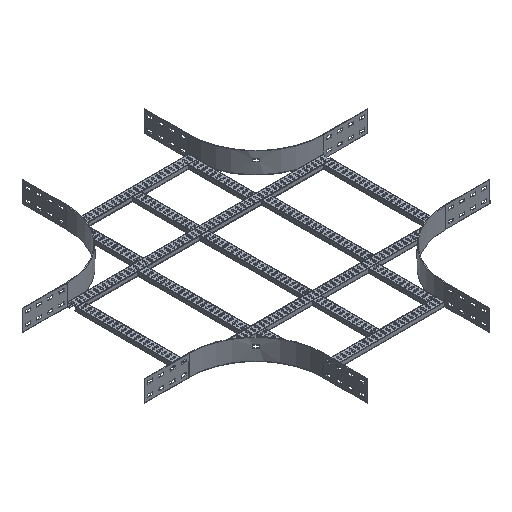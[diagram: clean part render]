
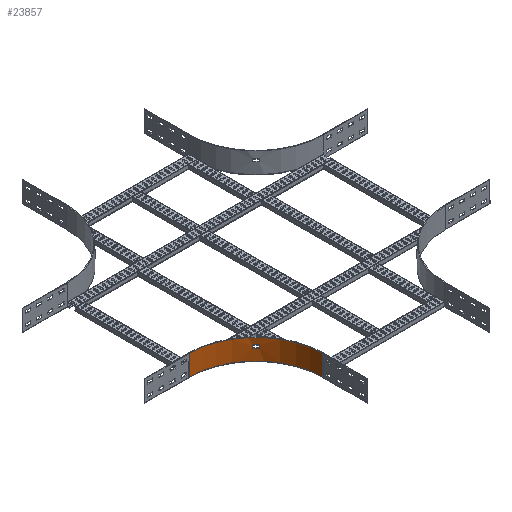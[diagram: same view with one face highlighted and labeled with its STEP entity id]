
A CAD part, isometric view. The second image highlights one B-rep face of the part: STEP entity #23857.
In plain terms, the highlighted cylindrical face has radius 300 mm (diameter 600 mm), a partial arc.
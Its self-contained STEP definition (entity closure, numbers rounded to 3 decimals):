
#621=FACE_BOUND('',#3467,.T.);
#1121=CYLINDRICAL_SURFACE('',#25103,300.);
#1174=CIRCLE('',#25095,300.);
#1179=CIRCLE('',#25102,300.);
#1180=CIRCLE('',#25104,300.);
#1181=CIRCLE('',#25105,300.);
#2249=FACE_OUTER_BOUND('',#3466,.T.);
#3466=EDGE_LOOP('',(#16122,#16123,#16124,#16125));
#3467=EDGE_LOOP('',(#16126,#16127,#16128,#16129));
#5181=LINE('',#33115,#7665);
#5183=LINE('',#33121,#7667);
#5188=LINE('',#33145,#7672);
#5189=LINE('',#33148,#7673);
#7665=VECTOR('',#26967,304.8);
#7667=VECTOR('',#26971,304.8);
#7672=VECTOR('',#26998,304.8);
#7673=VECTOR('',#27001,304.8);
#10146=VERTEX_POINT('',#33108);
#10149=VERTEX_POINT('',#33113);
#10151=VERTEX_POINT('',#33118);
#10152=VERTEX_POINT('',#33120);
#10158=VERTEX_POINT('',#33141);
#10159=VERTEX_POINT('',#33142);
#10160=VERTEX_POINT('',#33144);
#10161=VERTEX_POINT('',#33146);
#12525=EDGE_CURVE('',#10149,#10146,#5181,.T.);
#12527=EDGE_CURVE('',#10151,#10152,#5183,.T.);
#12530=EDGE_CURVE('',#10146,#10151,#1174,.T.);
#12537=EDGE_CURVE('',#10152,#10149,#1179,.T.);
#12538=EDGE_CURVE('',#10158,#10159,#1180,.T.);
#12539=EDGE_CURVE('',#10159,#10160,#5188,.T.);
#12540=EDGE_CURVE('',#10160,#10161,#1181,.T.);
#12541=EDGE_CURVE('',#10161,#10158,#5189,.T.);
#16122=ORIENTED_EDGE('',*,*,#12525,.F.);
#16123=ORIENTED_EDGE('',*,*,#12537,.F.);
#16124=ORIENTED_EDGE('',*,*,#12527,.F.);
#16125=ORIENTED_EDGE('',*,*,#12530,.F.);
#16126=ORIENTED_EDGE('',*,*,#12538,.T.);
#16127=ORIENTED_EDGE('',*,*,#12539,.T.);
#16128=ORIENTED_EDGE('',*,*,#12540,.T.);
#16129=ORIENTED_EDGE('',*,*,#12541,.T.);
#23857=ADVANCED_FACE('',(#2249,#621),#1121,.F.);
#25095=AXIS2_PLACEMENT_3D('',#33126,#26976,#26977);
#25102=AXIS2_PLACEMENT_3D('',#33139,#26992,#26993);
#25103=AXIS2_PLACEMENT_3D('',#33140,#26994,#26995);
#25104=AXIS2_PLACEMENT_3D('',#33143,#26996,#26997);
#25105=AXIS2_PLACEMENT_3D('',#33147,#26999,#27000);
#26967=DIRECTION('',(0.,0.,1.));
#26971=DIRECTION('',(0.,0.,-1.));
#26976=DIRECTION('center_axis',(0.,0.,-1.));
#26977=DIRECTION('ref_axis',(0.,1.,0.));
#26992=DIRECTION('center_axis',(0.,0.,1.));
#26993=DIRECTION('ref_axis',(0.,1.,0.));
#26994=DIRECTION('center_axis',(0.,0.,-1.));
#26995=DIRECTION('ref_axis',(0.,1.,0.));
#26996=DIRECTION('center_axis',(0.,0.,-1.));
#26997=DIRECTION('ref_axis',(0.,1.,0.));
#26998=DIRECTION('',(0.,0.,-1.));
#26999=DIRECTION('center_axis',(0.,0.,1.));
#27000=DIRECTION('ref_axis',(0.,1.,0.));
#27001=DIRECTION('',(0.,0.,1.));
#33108=CARTESIAN_POINT('',(-576.,-276.,47.));
#33113=CARTESIAN_POINT('',(-576.,-276.,-47.));
#33115=CARTESIAN_POINT('',(-576.,-276.,-47.));
#33118=CARTESIAN_POINT('',(-276.,-576.,47.));
#33120=CARTESIAN_POINT('',(-276.,-576.,-47.));
#33121=CARTESIAN_POINT('',(-276.,-576.,47.));
#33126=CARTESIAN_POINT('Origin',(-576.,-576.,47.));
#33139=CARTESIAN_POINT('Origin',(-576.,-576.,-47.));
#33140=CARTESIAN_POINT('Origin',(-576.,-576.,0.));
#33141=CARTESIAN_POINT('',(-371.76,-356.259,15.5));
#33142=CARTESIAN_POINT('',(-356.206,-371.818,15.5));
#33143=CARTESIAN_POINT('Origin',(-576.,-576.,15.5));
#33144=CARTESIAN_POINT('',(-356.206,-371.818,4.5));
#33145=CARTESIAN_POINT('',(-356.206,-371.818,15.5));
#33146=CARTESIAN_POINT('',(-371.76,-356.259,4.5));
#33147=CARTESIAN_POINT('Origin',(-576.,-576.,4.5));
#33148=CARTESIAN_POINT('',(-371.76,-356.259,4.5));
